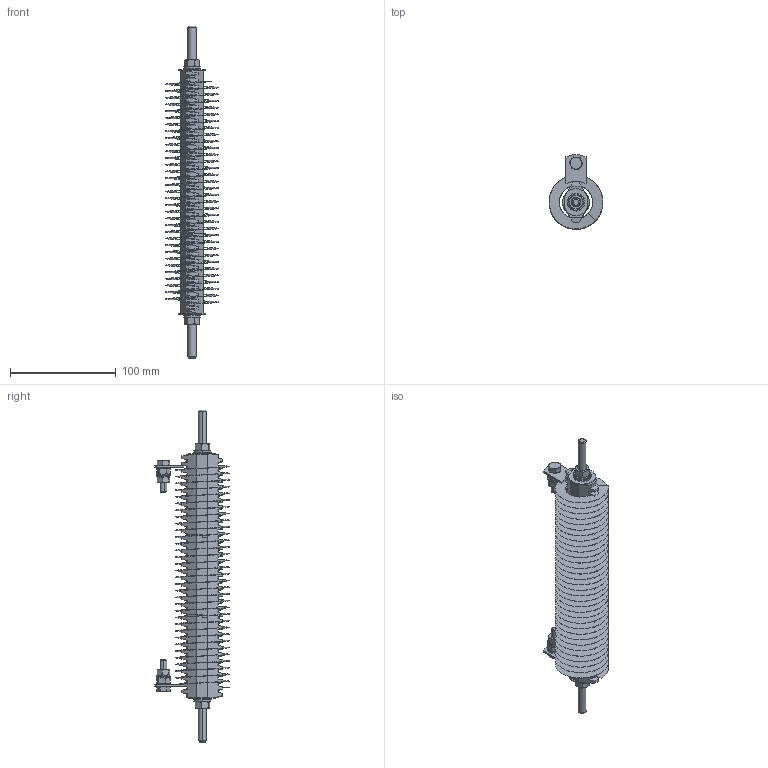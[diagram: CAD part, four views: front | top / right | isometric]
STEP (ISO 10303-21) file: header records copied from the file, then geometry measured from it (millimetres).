
FILE_DESCRIPTION (( 'STEP AP203' ), '1' );
FILE_NAME ('EDGS0600.STEP', '2014-02-26T20:03:21', ( '' ), ( '' ), 'SwSTEP 2.0', 'SolidWorks 2012', '' );
FILE_SCHEMA (( 'CONFIG_CONTROL_DESIGN' ));
Products named in the file (14): Flat Washer_.3125" - .68" - .05"thk; Flat Washer_.25" - .5" - .04"thk; 12-800-011; lock washer spring_Regular LW 0.25; hex nut_HNUT 0.2500-20-D-C; Hex Head Srew_HBOLT 0.2500-20x1x1-C; 326167; EDGS0600; 032-012 - STUD MOUNT CERAMICS_032-012-TSMCL; Hex Nut01_0.3125" - 0.26" thk; Lock Washer_0.3125" - 0.08" thk; Helical Coil_600; 032-012 - STUD MOUNT CERAMICS_032-012-TSECL; 0.30 inch threaded rod_0.3125" - 12.375" long
Assembly tree (27 placements, depth 2):
  EDGS0600
    0.30 inch threaded rod_0.3125" - 12.375" long
    032-012 - STUD MOUNT CERAMICS_032-012-TSECL  x2
    Helical Coil_600
    326167  x2
    Hex Head Srew_HBOLT 0.2500-20x1x1-C  x2
    hex nut_HNUT 0.2500-20-D-C  x4
    lock washer spring_Regular LW 0.25  x2
    12-800-011  x2
    Flat Washer_.25" - .5" - .04"thk  x4
    Flat Washer_.3125" - .68" - .05"thk  x2
    Lock Washer_0.3125" - 0.08" thk  x2
    Hex Nut01_0.3125" - 0.26" thk  x2
    032-012 - STUD MOUNT CERAMICS_032-012-TSMCL
Bounding box: 50.8 x 70.4 x 314.33 mm (x, y, z)
Volume: 146355.9 mm3; surface area: 137021.7 mm2
Topology: 27 solids, 27 shells, 676 faces, 1732 edges, 1108 vertices
Faces by surface type: bspline 226, plane 222, cone 120, cylinder 92, torus 16
Entity records: 135259 total; most frequent: CARTESIAN_POINT 125997, ORIENTED_EDGE 1952, DIRECTION 1041, EDGE_CURVE 976, VERTEX_POINT 632, AXIS2_PLACEMENT_3D 389, EDGE_LOOP 382, FACE_OUTER_BOUND 368
